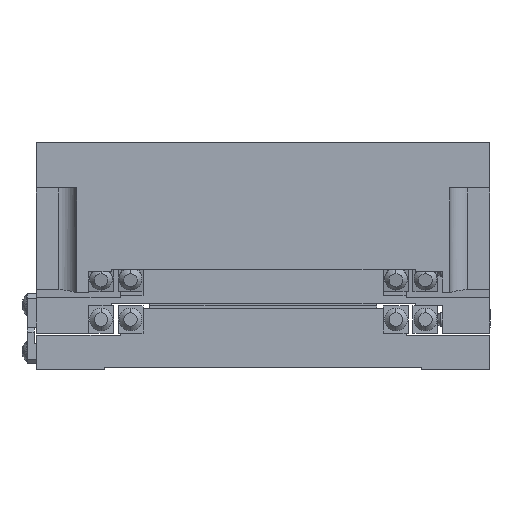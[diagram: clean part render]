
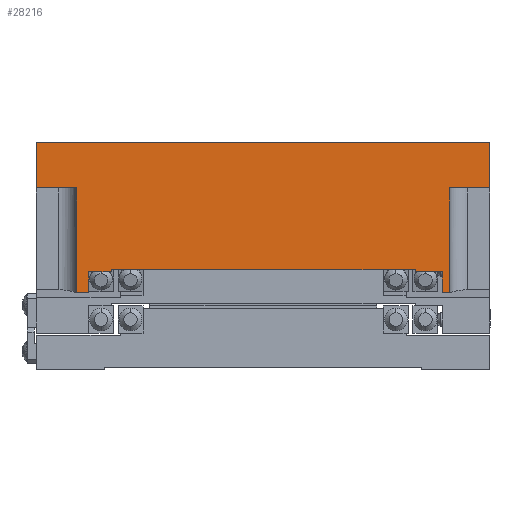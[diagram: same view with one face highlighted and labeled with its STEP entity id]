
A CAD part, left-side view. The second image highlights one B-rep face of the part: STEP entity #28216.
In plain terms, the highlighted planar face has unit normal (-1, 0, 0).
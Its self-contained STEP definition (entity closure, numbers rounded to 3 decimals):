
#2154 = AXIS2_PLACEMENT_3D ( 'NONE', #39959, #39964, #39965 ) ;
#2452 = VECTOR ( 'NONE', #53933, 1000. ) ;
#2455 = VECTOR ( 'NONE', #53950, 1000. ) ;
#2465 = VECTOR ( 'NONE', #54013, 1000. ) ;
#2469 = VECTOR ( 'NONE', #54004, 1000. ) ;
#2470 = VECTOR ( 'NONE', #54000, 1000. ) ;
#2471 = VECTOR ( 'NONE', #53996, 1000. ) ;
#2472 = VECTOR ( 'NONE', #54026, 1000. ) ;
#2474 = VECTOR ( 'NONE', #54008, 1000. ) ;
#2475 = VECTOR ( 'NONE', #54017, 1000. ) ;
#2477 = VECTOR ( 'NONE', #54021, 1000. ) ;
#2478 = VECTOR ( 'NONE', #54031, 1000. ) ;
#2479 = VECTOR ( 'NONE', #54039, 1000. ) ;
#2480 = VECTOR ( 'NONE', #54034, 1000. ) ;
#2481 = VECTOR ( 'NONE', #54044, 1000. ) ;
#2482 = VECTOR ( 'NONE', #54052, 1000. ) ;
#2483 = VECTOR ( 'NONE', #54047, 1000. ) ;
#6440 = VERTEX_POINT ( 'NONE', #26742 ) ;
#6471 = VERTEX_POINT ( 'NONE', #26771 ) ;
#6477 = VERTEX_POINT ( 'NONE', #26777 ) ;
#6479 = VERTEX_POINT ( 'NONE', #26778 ) ;
#22095 = EDGE_LOOP ( 'NONE', ( #37457, #37458, #37459, #37460, #37461, #37462, #37463, #37464, #37465, #37466, #37467, #37468, #37469, #37470, #37471, #37472 ) ) ;
#26742 = CARTESIAN_POINT ( 'NONE',  ( -50., 0., -50. ) ) ;
#26771 = CARTESIAN_POINT ( 'NONE',  ( -50., -28.5, -38.5 ) ) ;
#26777 = CARTESIAN_POINT ( 'NONE',  ( -50., -33., -38.5 ) ) ;
#26778 = CARTESIAN_POINT ( 'NONE',  ( -50., -28.5, -33.5 ) ) ;
#28216 = ADVANCED_FACE ( 'NONE', ( #39961 ), #39962, .T. ) ;
#28625 = VERTEX_POINT ( 'NONE', #53815 ) ;
#28630 = VERTEX_POINT ( 'NONE', #53825 ) ;
#28632 = VERTEX_POINT ( 'NONE', #53831 ) ;
#28633 = VERTEX_POINT ( 'NONE', #53822 ) ;
#28635 = VERTEX_POINT ( 'NONE', #53826 ) ;
#28639 = VERTEX_POINT ( 'NONE', #53842 ) ;
#28640 = VERTEX_POINT ( 'NONE', #53835 ) ;
#28646 = VERTEX_POINT ( 'NONE', #53856 ) ;
#28647 = VERTEX_POINT ( 'NONE', #53860 ) ;
#28649 = VERTEX_POINT ( 'NONE', #53859 ) ;
#28651 = VERTEX_POINT ( 'NONE', #53852 ) ;
#28653 = VERTEX_POINT ( 'NONE', #53868 ) ;
#28685 = EDGE_CURVE ( 'NONE', #6471, #6477, #53930, .T. ) ;
#28694 = EDGE_CURVE ( 'NONE', #6471, #6479, #53946, .T. ) ;
#28718 = EDGE_CURVE ( 'NONE', #28632, #28625, #53990, .T. ) ;
#28720 = EDGE_CURVE ( 'NONE', #28630, #28632, #53997, .T. ) ;
#28722 = EDGE_CURVE ( 'NONE', #6440, #28630, #53994, .T. ) ;
#28725 = EDGE_CURVE ( 'NONE', #6440, #28639, #54001, .T. ) ;
#28727 = EDGE_CURVE ( 'NONE', #28639, #28640, #54009, .T. ) ;
#28729 = EDGE_CURVE ( 'NONE', #28635, #28640, #54010, .T. ) ;
#28732 = EDGE_CURVE ( 'NONE', #28635, #6477, #54014, .T. ) ;
#28734 = EDGE_CURVE ( 'NONE', #28633, #6479, #54022, .T. ) ;
#28736 = EDGE_CURVE ( 'NONE', #28633, #28646, #54023, .T. ) ;
#28739 = EDGE_CURVE ( 'NONE', #28646, #28647, #54032, .T. ) ;
#28741 = EDGE_CURVE ( 'NONE', #28647, #28649, #54035, .T. ) ;
#28743 = EDGE_CURVE ( 'NONE', #28649, #28651, #54036, .T. ) ;
#28746 = EDGE_CURVE ( 'NONE', #28651, #28653, #54045, .T. ) ;
#28748 = EDGE_CURVE ( 'NONE', #28653, #28625, #54048, .T. ) ;
#37457 = ORIENTED_EDGE ( 'NONE', *, *, #28718, .F. ) ;
#37458 = ORIENTED_EDGE ( 'NONE', *, *, #28720, .F. ) ;
#37459 = ORIENTED_EDGE ( 'NONE', *, *, #28722, .F. ) ;
#37460 = ORIENTED_EDGE ( 'NONE', *, *, #28725, .T. ) ;
#37461 = ORIENTED_EDGE ( 'NONE', *, *, #28727, .T. ) ;
#37462 = ORIENTED_EDGE ( 'NONE', *, *, #28729, .F. ) ;
#37463 = ORIENTED_EDGE ( 'NONE', *, *, #28732, .T. ) ;
#37464 = ORIENTED_EDGE ( 'NONE', *, *, #28685, .F. ) ;
#37465 = ORIENTED_EDGE ( 'NONE', *, *, #28694, .T. ) ;
#37466 = ORIENTED_EDGE ( 'NONE', *, *, #28734, .F. ) ;
#37467 = ORIENTED_EDGE ( 'NONE', *, *, #28736, .T. ) ;
#37468 = ORIENTED_EDGE ( 'NONE', *, *, #28739, .T. ) ;
#37469 = ORIENTED_EDGE ( 'NONE', *, *, #28741, .T. ) ;
#37470 = ORIENTED_EDGE ( 'NONE', *, *, #28743, .T. ) ;
#37471 = ORIENTED_EDGE ( 'NONE', *, *, #28746, .T. ) ;
#37472 = ORIENTED_EDGE ( 'NONE', *, *, #28748, .T. ) ;
#39959 = CARTESIAN_POINT ( 'NONE',  ( -50., 0., 39.5 ) ) ;
#39961 = FACE_OUTER_BOUND ( 'NONE', #22095, .T. ) ;
#39962 = PLANE ( 'NONE',  #2154 ) ;
#39964 = DIRECTION ( 'NONE',  ( -1., 0., 0. ) ) ;
#39965 = DIRECTION ( 'NONE',  ( 0., 0., 1. ) ) ;
#53815 = CARTESIAN_POINT ( 'NONE',  ( -50., -10., 41.1 ) ) ;
#53822 = CARTESIAN_POINT ( 'NONE',  ( -50., -27.985, -33.5 ) ) ;
#53825 = CARTESIAN_POINT ( 'NONE',  ( -50., 0., 50. ) ) ;
#53826 = CARTESIAN_POINT ( 'NONE',  ( -50., -33., -41.1 ) ) ;
#53831 = CARTESIAN_POINT ( 'NONE',  ( -50., -10., 50. ) ) ;
#53835 = CARTESIAN_POINT ( 'NONE',  ( -50., -10., -41.1 ) ) ;
#53842 = CARTESIAN_POINT ( 'NONE',  ( -50., -10., -50. ) ) ;
#53852 = CARTESIAN_POINT ( 'NONE',  ( -50., -33., 39.5 ) ) ;
#53856 = CARTESIAN_POINT ( 'NONE',  ( -50., -27.985, 33.5 ) ) ;
#53859 = CARTESIAN_POINT ( 'NONE',  ( -50., -28.5, 39.5 ) ) ;
#53860 = CARTESIAN_POINT ( 'NONE',  ( -50., -28.5, 33.5 ) ) ;
#53868 = CARTESIAN_POINT ( 'NONE',  ( -50., -33., 41.1 ) ) ;
#53930 = LINE ( 'NONE', #53932, #2452 ) ;
#53932 = CARTESIAN_POINT ( 'NONE',  ( -50., 0., -38.5 ) ) ;
#53933 = DIRECTION ( 'NONE',  ( 0., -1., 0. ) ) ;
#53946 = LINE ( 'NONE', #53949, #2455 ) ;
#53949 = CARTESIAN_POINT ( 'NONE',  ( -50., -28.5, -38.5 ) ) ;
#53950 = DIRECTION ( 'NONE',  ( 0., 0., 1. ) ) ;
#53985 = CARTESIAN_POINT ( 'NONE',  ( -50., -10., 50. ) ) ;
#53990 = LINE ( 'NONE', #53985, #2471 ) ;
#53994 = LINE ( 'NONE', #54003, #2469 ) ;
#53996 = DIRECTION ( 'NONE',  ( 0., 0., -1. ) ) ;
#53997 = LINE ( 'NONE', #53999, #2470 ) ;
#53999 = CARTESIAN_POINT ( 'NONE',  ( -50., 0., 50. ) ) ;
#54000 = DIRECTION ( 'NONE',  ( 0., -1., 0. ) ) ;
#54001 = LINE ( 'NONE', #54005, #2474 ) ;
#54003 = CARTESIAN_POINT ( 'NONE',  ( -50., 0., 39.5 ) ) ;
#54004 = DIRECTION ( 'NONE',  ( 0., 0., 1. ) ) ;
#54005 = CARTESIAN_POINT ( 'NONE',  ( -50., 0., -50. ) ) ;
#54008 = DIRECTION ( 'NONE',  ( 0., -1., 0. ) ) ;
#54009 = LINE ( 'NONE', #54012, #2465 ) ;
#54010 = LINE ( 'NONE', #54016, #2475 ) ;
#54012 = CARTESIAN_POINT ( 'NONE',  ( -50., -10., -50. ) ) ;
#54013 = DIRECTION ( 'NONE',  ( 0., 0., 1. ) ) ;
#54014 = LINE ( 'NONE', #54018, #2477 ) ;
#54016 = CARTESIAN_POINT ( 'NONE',  ( -50., -33., -41.1 ) ) ;
#54017 = DIRECTION ( 'NONE',  ( 0., 1., 0. ) ) ;
#54018 = CARTESIAN_POINT ( 'NONE',  ( -50., -33., -50. ) ) ;
#54021 = DIRECTION ( 'NONE',  ( 0., 0., 1. ) ) ;
#54022 = LINE ( 'NONE', #54025, #2472 ) ;
#54023 = LINE ( 'NONE', #54030, #2478 ) ;
#54025 = CARTESIAN_POINT ( 'NONE',  ( -50., 0., -33.5 ) ) ;
#54026 = DIRECTION ( 'NONE',  ( 0., -1., 0. ) ) ;
#54027 = CARTESIAN_POINT ( 'NONE',  ( -50., 0., 33.5 ) ) ;
#54030 = CARTESIAN_POINT ( 'NONE',  ( -50., -27.985, -33.5 ) ) ;
#54031 = DIRECTION ( 'NONE',  ( 0., 0., 1. ) ) ;
#54032 = LINE ( 'NONE', #54027, #2480 ) ;
#54034 = DIRECTION ( 'NONE',  ( 0., -1., 0. ) ) ;
#54035 = LINE ( 'NONE', #54038, #2479 ) ;
#54036 = LINE ( 'NONE', #54043, #2481 ) ;
#54038 = CARTESIAN_POINT ( 'NONE',  ( -50., -28.5, 33.5 ) ) ;
#54039 = DIRECTION ( 'NONE',  ( 0., 0., 1. ) ) ;
#54040 = CARTESIAN_POINT ( 'NONE',  ( -50., -33., 39.5 ) ) ;
#54043 = CARTESIAN_POINT ( 'NONE',  ( -50., 0., 39.5 ) ) ;
#54044 = DIRECTION ( 'NONE',  ( 0., -1., 0. ) ) ;
#54045 = LINE ( 'NONE', #54040, #2483 ) ;
#54047 = DIRECTION ( 'NONE',  ( 0., 0., 1. ) ) ;
#54048 = LINE ( 'NONE', #54051, #2482 ) ;
#54051 = CARTESIAN_POINT ( 'NONE',  ( -50., -33., 41.1 ) ) ;
#54052 = DIRECTION ( 'NONE',  ( 0., 1., 0. ) ) ;
